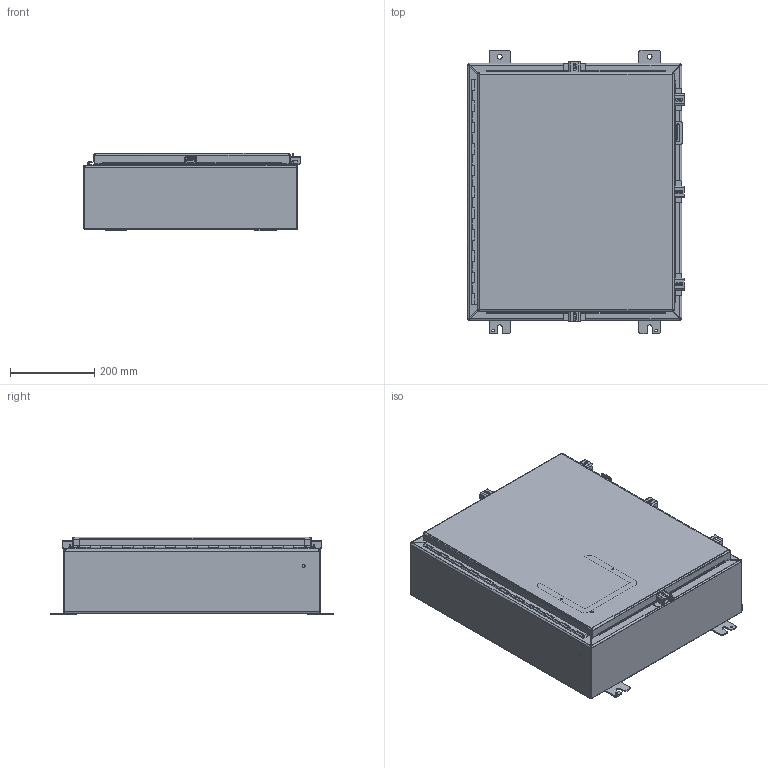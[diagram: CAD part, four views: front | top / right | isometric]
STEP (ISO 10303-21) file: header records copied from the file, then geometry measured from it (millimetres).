
FILE_DESCRIPTION (( 'STEP AP203' ), '1' );
FILE_NAME ('a24h2006emcss.STEP', '2008-08-04T18:58:07', ( 'Hoffman User' ), ( 'Hoffman Enclosures' ), 'SwSTEP 2.0', 'SolidWorks 2007', '' );
FILE_SCHEMA (( 'CONFIG_CONTROL_DESIGN' ));
Length unit declared in the file: inch
Products named in the file (21): 22a18_hinge_body_21in; assy_clamp_Side; 22300002_brkt_clamp; 8756004X_clamp; 99401225_99401225; 22a18_hinge_door_21in; a24h2006emcss; A4SEM_wmt_body_24x20x6; A4SEM_Body_24x20x6; A4SEM_end_20x6; 22132004-staple; 22110002_mtg_foot; 22112003_studcollar; assy_clamp_End; stud_m6x16_99401226; A4SEM_wmt_door_24x20; A4SEM_Door_24x20; 11158311_CD Stud M4; Hasp_22a07; 242352001; Panel_Nema_A24P20
Assembly tree (33 placements, depth 4):
  a24h2006emcss
    A4SEM_wmt_body_24x20x6
      22112003_studcollar  x4
      22132004-staple
      A4SEM_end_20x6  x2
      assy_clamp_End  x2
        22300002_brkt_clamp
        8756004X_clamp
      22110002_mtg_foot  x4
      assy_clamp_Side  x3
        22300002_brkt_clamp
        8756004X_clamp
      stud_m6x16_99401226
      22a18_hinge_body_21in
      A4SEM_Body_24x20x6
    A4SEM_wmt_door_24x20
      11158311_CD Stud M4  x2
      242352001
      99401225_99401225
      A4SEM_Door_24x20
      Hasp_22a07
      22a18_hinge_door_21in
    Panel_Nema_A24P20
Bounding box: 514.22 x 673.1 x 184.21 mm (x, y, z)
Volume: 2697710.9 mm3; surface area: 2864692.4 mm2
Topology: 32 solids, 32 shells, 1298 faces, 3199 edges, 1985 vertices
Faces by surface type: plane 705, cylinder 471, torus 62, bspline 40, cone 20
Entity records: 26548 total; most frequent: CARTESIAN_POINT 5489, DIRECTION 3896, ORIENTED_EDGE 3842, EDGE_CURVE 1921, LINE 1300, VECTOR 1300, AXIS2_PLACEMENT_3D 1298, VERTEX_POINT 1199
